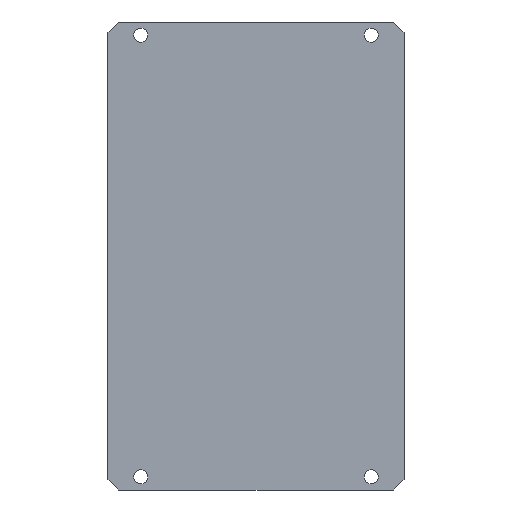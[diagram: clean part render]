
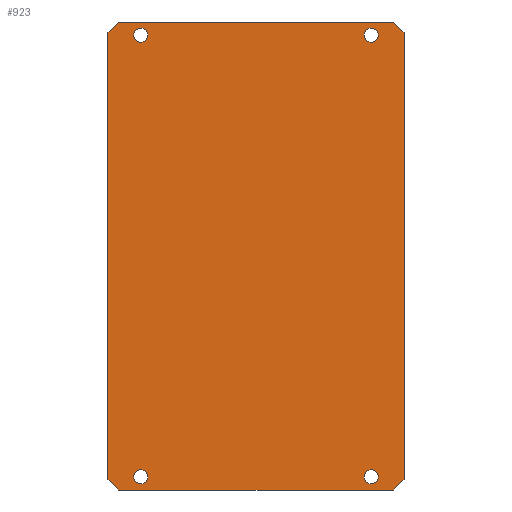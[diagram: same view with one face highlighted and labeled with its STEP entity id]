
A CAD part, front view. The second image highlights one B-rep face of the part: STEP entity #923.
In plain terms, the highlighted planar face has unit normal (0, -1, 0).
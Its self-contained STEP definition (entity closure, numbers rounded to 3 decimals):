
#13=FACE_BOUND('',#222,.T.);
#14=FACE_BOUND('',#223,.T.);
#15=FACE_BOUND('',#224,.T.);
#16=FACE_BOUND('',#225,.T.);
#87=PLANE('',#1062);
#152=FACE_OUTER_BOUND('',#221,.T.);
#221=EDGE_LOOP('',(#756,#757,#758,#759,#760,#761,#762,#763));
#222=EDGE_LOOP('',(#764));
#223=EDGE_LOOP('',(#765));
#224=EDGE_LOOP('',(#766));
#225=EDGE_LOOP('',(#767));
#278=LINE('',#1553,#348);
#280=LINE('',#1557,#350);
#287=LINE('',#1571,#357);
#288=LINE('',#1573,#358);
#289=LINE('',#1575,#359);
#290=LINE('',#1577,#360);
#291=LINE('',#1579,#361);
#292=LINE('',#1580,#362);
#348=VECTOR('',#1296,10.);
#350=VECTOR('',#1300,10.);
#357=VECTOR('',#1309,10.);
#358=VECTOR('',#1310,10.);
#359=VECTOR('',#1311,10.);
#360=VECTOR('',#1312,10.);
#361=VECTOR('',#1313,10.);
#362=VECTOR('',#1314,10.);
#422=CIRCLE('',#1063,1.6);
#423=CIRCLE('',#1064,1.6);
#424=CIRCLE('',#1065,1.6);
#425=CIRCLE('',#1066,1.6);
#476=VERTEX_POINT('',#1550);
#477=VERTEX_POINT('',#1552);
#478=VERTEX_POINT('',#1556);
#484=VERTEX_POINT('',#1570);
#485=VERTEX_POINT('',#1572);
#486=VERTEX_POINT('',#1574);
#487=VERTEX_POINT('',#1576);
#488=VERTEX_POINT('',#1578);
#489=VERTEX_POINT('',#1581);
#490=VERTEX_POINT('',#1583);
#491=VERTEX_POINT('',#1585);
#492=VERTEX_POINT('',#1587);
#574=EDGE_CURVE('',#476,#477,#278,.T.);
#576=EDGE_CURVE('',#478,#477,#280,.T.);
#583=EDGE_CURVE('',#476,#484,#287,.T.);
#584=EDGE_CURVE('',#485,#484,#288,.T.);
#585=EDGE_CURVE('',#485,#486,#289,.T.);
#586=EDGE_CURVE('',#487,#486,#290,.T.);
#587=EDGE_CURVE('',#487,#488,#291,.T.);
#588=EDGE_CURVE('',#478,#488,#292,.T.);
#589=EDGE_CURVE('',#489,#489,#422,.T.);
#590=EDGE_CURVE('',#490,#490,#423,.T.);
#591=EDGE_CURVE('',#491,#491,#424,.T.);
#592=EDGE_CURVE('',#492,#492,#425,.T.);
#756=ORIENTED_EDGE('',*,*,#574,.F.);
#757=ORIENTED_EDGE('',*,*,#583,.T.);
#758=ORIENTED_EDGE('',*,*,#584,.F.);
#759=ORIENTED_EDGE('',*,*,#585,.T.);
#760=ORIENTED_EDGE('',*,*,#586,.F.);
#761=ORIENTED_EDGE('',*,*,#587,.T.);
#762=ORIENTED_EDGE('',*,*,#588,.F.);
#763=ORIENTED_EDGE('',*,*,#576,.T.);
#764=ORIENTED_EDGE('',*,*,#589,.T.);
#765=ORIENTED_EDGE('',*,*,#590,.T.);
#766=ORIENTED_EDGE('',*,*,#591,.T.);
#767=ORIENTED_EDGE('',*,*,#592,.T.);
#923=ADVANCED_FACE('',(#152,#13,#14,#15,#16),#87,.T.);
#1062=AXIS2_PLACEMENT_3D('',#1569,#1307,#1308);
#1063=AXIS2_PLACEMENT_3D('',#1582,#1315,#1316);
#1064=AXIS2_PLACEMENT_3D('',#1584,#1317,#1318);
#1065=AXIS2_PLACEMENT_3D('',#1586,#1319,#1320);
#1066=AXIS2_PLACEMENT_3D('',#1588,#1321,#1322);
#1296=DIRECTION('',(-0.707,0.,0.707));
#1300=DIRECTION('',(0.,0.,-1.));
#1307=DIRECTION('center_axis',(0.,-1.,0.));
#1308=DIRECTION('ref_axis',(0.,0.,-1.));
#1309=DIRECTION('',(1.,0.,0.));
#1310=DIRECTION('',(-0.707,0.,-0.707));
#1311=DIRECTION('',(0.,0.,1.));
#1312=DIRECTION('',(0.707,0.,-0.707));
#1313=DIRECTION('',(-1.,0.,0.));
#1314=DIRECTION('',(0.707,0.,0.707));
#1315=DIRECTION('center_axis',(0.,1.,0.));
#1316=DIRECTION('ref_axis',(1.,0.,0.));
#1317=DIRECTION('center_axis',(0.,1.,0.));
#1318=DIRECTION('ref_axis',(1.,0.,0.));
#1319=DIRECTION('center_axis',(0.,1.,0.));
#1320=DIRECTION('ref_axis',(1.,0.,0.));
#1321=DIRECTION('center_axis',(0.,1.,0.));
#1322=DIRECTION('ref_axis',(1.,0.,0.));
#1550=CARTESIAN_POINT('',(-65.2,0.,-107.));
#1552=CARTESIAN_POINT('',(-67.7,0.,-104.5));
#1553=CARTESIAN_POINT('',(-71.363,0.,-100.838));
#1556=CARTESIAN_POINT('',(-67.7,0.,-2.5));
#1557=CARTESIAN_POINT('',(-67.7,0.,0.));
#1569=CARTESIAN_POINT('Origin',(-33.85,0.,-53.5));
#1570=CARTESIAN_POINT('',(-2.5,0.,-107.));
#1571=CARTESIAN_POINT('',(-67.7,0.,-107.));
#1572=CARTESIAN_POINT('',(0.,0.,-104.5));
#1573=CARTESIAN_POINT('',(3.662,0.,-100.838));
#1574=CARTESIAN_POINT('',(0.,0.,-2.5));
#1575=CARTESIAN_POINT('',(0.,0.,-107.));
#1576=CARTESIAN_POINT('',(-2.5,0.,0.));
#1577=CARTESIAN_POINT('',(3.663,0.,-6.163));
#1578=CARTESIAN_POINT('',(-65.2,0.,0.));
#1579=CARTESIAN_POINT('',(0.,0.,0.));
#1580=CARTESIAN_POINT('',(-71.363,0.,-6.163));
#1581=CARTESIAN_POINT('',(-61.8,0.,-104.));
#1582=CARTESIAN_POINT('Origin',(-60.2,0.,-104.));
#1583=CARTESIAN_POINT('',(-9.1,0.,-104.));
#1584=CARTESIAN_POINT('Origin',(-7.5,0.,-104.));
#1585=CARTESIAN_POINT('',(-61.8,0.,-3.));
#1586=CARTESIAN_POINT('Origin',(-60.2,0.,-3.));
#1587=CARTESIAN_POINT('',(-9.1,0.,-3.));
#1588=CARTESIAN_POINT('Origin',(-7.5,0.,-3.));
